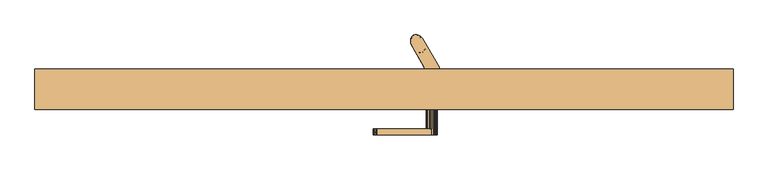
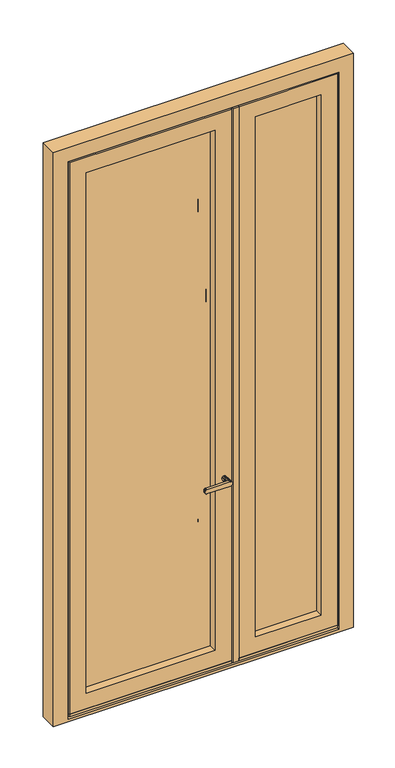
"""IFC4 building model written with IfcOpenShell, lengths in millimetres: door geometry, RDC Tierce."""

from ifc_helpers import new_model, si_unit, frame, origin, place, context, project, spatial, polyline, outline, extrude, faceted_brep, source, transform, mapped, element, save


def door_df96076b(model_context):
    return source(origin(), model_context, "Body", "SolidModel", [
        extrude(outline(polyline([(1217.0, 299.0), (708.0, 299.0), (708.0, 307.3), (1217.0, 307.3), (1217.0, 299.0)])), frame((0.0, 0.0, 176.0160203), z_axis=(0.0, 0.0, 1.0), x_axis=(1.0, 0.0, 0.0)), (0.0, 0.0, 1.0), 13.9839797),
        faceted_brep([(680.5, 307.3, 3208.5), (680.5, 307.3, 178.5), (680.5, 380.7, 178.5), (680.5, 380.7, 3208.5), (701.0, 380.7, 3229.0), (-199.0, 380.7, 3229.0), (-199.0, 380.7, 158.0), (701.0, 380.7, 158.0), (-178.5, 380.7, 3208.5), (-178.5, 380.7, 178.5), (-178.5, 307.3, 178.5), (-178.5, 307.3, 3208.5), (-167.0, 307.3, 3197.0), (669.0, 307.3, 3197.0), (669.0, 307.3, 190.0), (-167.0, 307.3, 190.0), (669.0, 299.0, 3197.0), (669.0, 299.0, 190.0), (-167.0, 299.0, 190.0), (-167.0, 299.0, 3197.0), (-81.9999695, 299.0, 3111.9999695), (583.9999695, 299.0, 3111.9999695), (583.9999695, 299.0, 275.0000305), (-81.9999695, 299.0, 275.0000305), (583.9999695, 340.0, 3111.9999695), (583.9999695, 340.0, 275.0000305), (-81.9999695, 340.0, 275.0000305), (-97.0, 340.0, 3127.0), (599.0, 340.0, 3127.0), (599.0, 340.0, 260.0), (-97.0, 340.0, 260.0), (-81.9999695, 340.0, 3111.9999695), (599.0, 378.0, 3127.0), (599.0, 378.0, 260.0), (-97.0, 378.0, 260.0), (-97.0, 378.0, 3127.0), (-80.0, 378.0, 3110.0), (582.0, 378.0, 3110.0), (582.0, 378.0, 277.0), (-80.0, 378.0, 277.0), (582.0, 389.0, 3110.0), (582.0, 389.0, 277.0), (-80.0, 389.0, 277.0), (-199.0, 389.0, 3229.0), (701.0, 389.0, 3229.0), (701.0, 389.0, 158.0), (-199.0, 389.0, 158.0), (-80.0, 389.0, 3110.0)], [[[0, 1, 2, 3]], [[4, 5, 6, 7], [8, 3, 2, 9]], [[1, 10, 9, 2]], [[0, 11, 10, 1], [12, 13, 14, 15]], [[16, 17, 14, 13]], [[17, 18, 15, 14]], [[16, 19, 18, 17], [20, 21, 22, 23]], [[24, 25, 22, 21]], [[25, 26, 23, 22]], [[27, 28, 29, 30], [24, 31, 26, 25]], [[32, 33, 29, 28]], [[33, 34, 30, 29]], [[32, 35, 34, 33], [36, 37, 38, 39]], [[40, 41, 38, 37]], [[41, 42, 39, 38]], [[43, 44, 45, 46], [40, 47, 42, 41]], [[4, 7, 45, 44]], [[7, 6, 46, 45]], [[10, 11, 8, 9]], [[18, 19, 12, 15]], [[26, 31, 20, 23]], [[34, 35, 27, 30]], [[42, 47, 36, 39]], [[6, 5, 43, 46]], [[11, 0, 3, 8]], [[19, 16, 13, 12]], [[31, 24, 21, 20]], [[35, 32, 28, 27]], [[47, 40, 37, 36]], [[5, 4, 44, 43]]]),
        faceted_brep([(647.9561005, 393.0, 243.5), (614.0438995, 393.0, 243.5), (614.0438995, 389.0, 243.5), (647.9561005, 389.0, 243.5), (647.9561005, 393.0, 213.5), (614.0438995, 393.0, 213.5), (614.0438995, 393.0, 209.5), (614.0438995, 389.0, 209.5), (647.9561005, 389.0, 209.5), (647.9561005, 393.0, 209.5), (593.3206375, 464.7977182, 213.5), (590.2202421, 463.6325794, 213.5), (587.6610052, 461.5301271, 213.5), (585.7712575, 458.5957871, 213.5), (584.645759, 454.9766994, 213.5), (584.3409469, 450.8543403, 213.5), (584.8721057, 446.4354221, 213.5), (586.2126009, 441.9415279, 213.5), (588.2952144, 437.5980002, 213.5), (613.7293692, 452.2824201, 213.5), (611.0090689, 456.2577791, 213.5), (607.7874883, 459.6656279, 213.5), (604.226171, 462.3350828, 213.5), (600.5036962, 464.1322861, 213.5), (596.8067245, 464.9671186, 213.5), (588.2952144, 437.5980002, 209.5), (586.2126009, 441.9415279, 209.5), (584.8721057, 446.4354221, 209.5), (584.3409469, 450.8543403, 209.5), (584.645759, 454.9766994, 209.5), (585.7712575, 458.5957871, 209.5), (587.6610052, 461.5301271, 209.5), (590.2202421, 463.6325794, 209.5), (593.3206375, 464.7977182, 209.5), (596.8067245, 464.9671186, 209.5), (600.5036962, 464.1322861, 209.5), (604.226171, 462.3350828, 209.5), (607.7874883, 459.6656279, 209.5), (611.0090689, 456.2577791, 209.5), (613.7293692, 452.2824201, 209.5), (613.7293692, 452.2824201, 211.9099144), (588.2952144, 437.5980002, 211.0900847), (586.6256711, 460.1586471, 211.5), (598.6402947, 464.6737832, 211.5), (584.3554423, 450.4468941, 211.5)], [[[0, 1, 2, 3]], [[1, 0, 4, 5]], [[5, 6, 7, 2, 1]], [[2, 7, 8, 3]], [[4, 0, 3, 8, 9]], [[10, 11, 12, 13, 14, 15, 16, 17, 18, 5, 4, 19, 20, 21, 22, 23, 24]], [[9, 8, 7, 6, 25, 26, 27, 28, 29, 30, 31, 32, 33, 34, 35, 36, 37, 38, 39]], [[4, 9, 39, 40, 19]], [[6, 5, 18, 41, 25]], [[20, 19, 40]], [[40, 39, 38]], [[12, 42, 13]], [[40, 37, 43]], [[38, 37, 40]], [[35, 34, 43]], [[21, 43, 22]], [[23, 43, 24]], [[43, 33, 32]], [[26, 25, 41]], [[41, 18, 17]], [[35, 43, 36]], [[40, 21, 20]], [[43, 34, 33]], [[42, 30, 29]], [[43, 37, 36]], [[44, 41, 17]], [[43, 23, 22]], [[43, 10, 24]], [[43, 21, 40]], [[10, 43, 11]], [[42, 43, 32]], [[42, 31, 30]], [[28, 44, 29]], [[41, 27, 26]], [[41, 44, 27]], [[27, 44, 28]], [[17, 16, 44]], [[11, 43, 42]], [[31, 42, 32]], [[12, 11, 42]], [[13, 42, 14]], [[14, 42, 44]], [[44, 42, 29]], [[44, 15, 14]], [[44, 16, 15]]]),
        faceted_brep([(-174.0, 299.0, 3204.0), (-174.0, 299.0, 165.0072496), (-174.0, 307.3, 167.8651688), (-174.0, 307.3, 3204.0), (-194.5, 307.3, 167.8651688), (-194.5, 307.3, 3224.5), (1244.5, 307.3, 3224.5), (1244.5, 307.3, 167.8651688), (1224.0, 307.3, 167.8651688), (1224.0, 307.3, 3204.0), (-194.5, 313.5, 170.0), (-194.5, 321.0, 170.0), (-194.5, 321.0, 164.3), (-194.5, 380.7, 164.3), (-194.5, 380.7, 3224.5), (-206.0, 388.9993365, 150.0), (-206.0, 388.9993365, 3236.0), (-206.0, 380.7, 3236.0), (-206.0, 380.7, 150.0), (-250.0, 388.9993365, 150.0), (-250.0, 388.9993365, 3280.0), (1300.0, 388.9993365, 3280.0), (1300.0, 388.9993365, 150.0), (1256.0, 388.9993365, 150.0), (1256.0, 388.9993365, 3236.0), (1224.0, 299.0, 165.0072496), (1224.0, 299.0, 3204.0), (1256.0, 380.7, 150.0), (1256.0, 380.7, 3236.0), (1244.5, 380.7, 3224.5), (1244.5, 380.7, 164.3), (1244.5, 321.0, 164.3), (1244.5, 321.0, 170.0), (1244.5, 313.5, 170.0), (-250.0, 299.0, 3280.0), (1300.0, 299.0, 3280.0), (-250.0, 299.0, 150.0), (1300.0, 299.0, 150.0)], [[[0, 1, 2, 3]], [[3, 2, 4, 5, 6, 7, 8, 9]], [[5, 4, 10, 11, 12, 13, 14]], [[15, 16, 17, 18]], [[19, 20, 21, 22, 23, 24, 16, 15]], [[9, 8, 25, 26]], [[24, 23, 27, 28]], [[29, 30, 31, 32, 33, 7, 6]], [[26, 0, 3, 9]], [[28, 17, 16, 24]], [[21, 20, 34, 35]], [[5, 14, 29, 6]], [[19, 36, 34, 20]], [[35, 37, 22, 21]], [[34, 36, 37, 35], [26, 25, 1, 0]], [[18, 27, 23, 22, 37, 36, 19, 15]], [[10, 4, 2, 1, 25, 8, 7, 33]], [[28, 27, 18, 17], [13, 30, 29, 14]], [[31, 30, 13, 12]], [[12, 11, 32, 31]], [[11, 10, 33, 32]]]),
        faceted_brep([(642.5801281, 299.0, 1203.102886), (642.9886308, 299.0, 1200.0), (642.5801281, 299.0, 1196.897114), (641.3824588, 299.0, 1194.0056846), (639.4772421, 299.0, 1191.5227579), (636.9943154, 299.0, 1189.6175412), (634.102886, 299.0, 1188.4198719), (631.0, 299.0, 1188.0113692), (627.897114, 299.0, 1188.4198719), (625.0056846, 299.0, 1189.6175412), (622.5227579, 299.0, 1191.5227579), (620.6175412, 299.0, 1194.0056846), (619.4198719, 299.0, 1196.897114), (619.0113692, 299.0, 1200.0), (619.4198719, 299.0, 1203.102886), (620.6175412, 299.0, 1205.9943154), (622.5227579, 299.0, 1208.4772421), (625.0056846, 299.0, 1210.3824588), (627.897114, 299.0, 1211.5801281), (631.0, 299.0, 1211.9886308), (634.102886, 299.0, 1211.5801281), (636.9943154, 299.0, 1210.3824588), (639.4772421, 299.0, 1208.4772421), (641.3824588, 299.0, 1205.9943154), (631.0, 255.5001175, 1188.0113692), (627.897114, 255.5001175, 1188.4198719), (625.0056846, 255.5001175, 1189.6175412), (622.5227579, 255.5001175, 1191.5227579), (620.6175412, 255.5001175, 1194.0056846), (619.4198719, 255.5001175, 1196.897114), (619.0113692, 255.5001175, 1200.0), (619.4198719, 255.5001175, 1203.102886), (620.6175412, 255.5001175, 1205.9943154), (622.5227579, 255.5001175, 1208.4772421), (625.0056846, 255.5001175, 1210.3824588), (627.897114, 255.5001175, 1211.5801281), (631.0, 255.5001175, 1211.9886308), (631.0, 243.0000305, 1211.9886308), (634.102886, 243.0000305, 1211.5801281), (636.9943154, 243.0000305, 1210.3824588), (639.4772421, 243.0000305, 1208.4772421), (641.3824588, 243.0000305, 1205.9943154), (642.5801281, 243.0000305, 1203.102886), (642.9886308, 243.0000305, 1200.0), (642.5801281, 243.0000305, 1196.897114), (641.3824588, 243.0000305, 1194.0056846), (639.4772421, 243.0000305, 1191.5227579), (636.9943154, 243.0000305, 1189.6175412), (634.102886, 243.0000305, 1188.4198719), (631.0, 243.0000305, 1188.0113692), (509.3382074, 243.0000305, 1211.9886308), (507.7960029, 243.0000305, 1211.7582726), (506.3130644, 243.0000305, 1211.0760506), (504.9463805, 243.0000305, 1209.9681822), (503.7484721, 243.0000305, 1208.4772421), (502.765374, 243.0000305, 1206.6605264), (502.0348662, 243.0000305, 1204.5878504), (501.5850218, 243.0000305, 1202.3388658), (501.4331279, 243.0000305, 1200.0), (501.5850218, 243.0000305, 1197.6611342), (502.0348662, 243.0000305, 1195.4121496), (502.765374, 243.0000305, 1193.3394736), (503.7484721, 243.0000305, 1191.5227579), (504.9463805, 243.0000305, 1190.0318178), (506.3130644, 243.0000305, 1188.9239494), (507.7960029, 243.0000305, 1188.2417274), (509.3382074, 243.0000305, 1188.0113692), (501.5850218, 255.5001175, 1197.6611342), (501.4331279, 255.5001175, 1200.0), (501.5850218, 255.5001175, 1202.3388658), (502.0348662, 255.5001175, 1204.5878504), (502.765374, 255.5001175, 1206.6605264), (503.7484721, 255.5001175, 1208.4772421), (504.9463805, 255.5001175, 1209.9681822), (506.3130644, 255.5001175, 1211.0760506), (507.7960029, 255.5001175, 1211.7582726), (509.3382074, 255.5001175, 1211.9886308), (509.3382074, 255.5001175, 1188.0113692), (507.7960029, 255.5001175, 1188.2417274), (506.3130644, 255.5001175, 1188.9239494), (504.9463805, 255.5001175, 1190.0318178), (503.7484721, 255.5001175, 1191.5227579), (502.765374, 255.5001175, 1193.3394736), (502.0348662, 255.5001175, 1195.4121496), (509.3382074, 250.0756599, 1188.0113692), (505.6117788, 249.2500761, 1189.4269715), (503.2274983, 249.2500743, 1192.3944932), (501.773518, 249.250074, 1196.5198842), (502.3665497, 249.250074, 1205.6514014), (501.471193, 249.2500741, 1201.1750915), (504.323278, 249.250074, 1209.2673369), (507.0434839, 249.250074, 1211.4724044), (509.3382074, 249.250074, 1211.9886308)], [[[0, 1, 2, 3, 4, 5, 6, 7, 8, 9, 10, 11, 12, 13, 14, 15, 16, 17, 18, 19, 20, 21, 22, 23]], [[7, 24, 25, 8]], [[8, 25, 26, 9]], [[11, 10, 27, 28]], [[27, 10, 9, 26]], [[12, 11, 28, 29]], [[12, 29, 30, 13]], [[13, 30, 31, 14]], [[14, 31, 32, 15]], [[17, 16, 33, 34]], [[33, 16, 15, 32]], [[18, 17, 34, 35]], [[18, 35, 36, 19]], [[19, 36, 37, 38, 20]], [[20, 38, 39, 21]], [[23, 22, 40, 41]], [[40, 22, 21, 39]], [[0, 23, 41, 42]], [[0, 42, 43, 1]], [[1, 43, 44, 2]], [[2, 44, 45, 3]], [[5, 4, 46, 47]], [[46, 4, 3, 45]], [[6, 5, 47, 48]], [[6, 48, 49, 24, 7]], [[44, 43, 42, 41, 40, 39, 38, 37, 50, 51, 52, 53, 54, 55, 56, 57, 58, 59, 60, 61, 62, 63, 64, 65, 66, 49, 48, 47, 46, 45]], [[67, 68, 69, 70, 71, 72, 73, 74, 75, 76, 36, 35, 34, 33, 32, 31, 30, 29, 28, 27, 26, 25, 24, 77, 78, 79, 80, 81, 82, 83]], [[24, 49, 66, 84, 77]], [[65, 64, 85]], [[86, 85, 63]], [[82, 87, 83]], [[80, 86, 81]], [[69, 88, 70]], [[84, 85, 78]], [[87, 60, 59]], [[89, 57, 56]], [[60, 87, 86]], [[73, 90, 91, 74]], [[62, 61, 86]], [[90, 72, 71, 88]], [[89, 87, 58]], [[79, 85, 80]], [[78, 77, 84]], [[65, 84, 66]], [[79, 78, 85]], [[87, 59, 58]], [[63, 85, 64]], [[61, 60, 86]], [[63, 62, 86]], [[81, 86, 82]], [[80, 85, 86]], [[75, 92, 76]], [[51, 50, 92]], [[88, 55, 54, 90]], [[82, 86, 87]], [[84, 65, 85]], [[67, 83, 87]], [[53, 52, 91, 90]], [[67, 87, 89]], [[88, 56, 55]], [[56, 88, 89]], [[52, 51, 91]], [[90, 54, 53]], [[68, 67, 89]], [[68, 89, 69]], [[69, 89, 88]], [[70, 88, 71]], [[51, 92, 91]], [[90, 73, 72]], [[74, 91, 75]], [[91, 92, 75]], [[89, 58, 57]], [[37, 36, 76, 92, 50]]]),
        extrude(outline(polyline([(778.0, 340.0), (778.0, 378.0), (1147.0, 378.0), (1147.0, 340.0), (778.0, 340.0)])), frame((0.0, 0.0, 260.0), z_axis=(0.0, 0.0, 1.0), x_axis=(1.0, 0.0, 0.0)), (0.0, 0.0, 1.0), 2867.0),
        extrude(outline(polyline([(676.0, 299.0), (676.0, 307.3), (708.0, 307.3), (708.0, 299.0), (676.0, 299.0)])), frame((0.0, 0.0, 176.0160203), z_axis=(0.0, 0.0, 1.0), x_axis=(1.0, 0.0, 0.0)), (0.0, 0.0, 1.0), 3020.9839797),
        faceted_brep([(596.8067219, 464.9671188, 3173.5), (593.3206353, 464.7977178, 3173.5), (590.2202405, 463.6325784, 3173.5), (587.6610041, 461.5301259, 3173.5), (585.7712569, 458.5957857, 3173.5), (584.6457588, 454.9766982, 3173.5), (584.3409469, 450.8543393, 3173.5), (584.8721059, 446.4354214, 3173.5), (586.212601, 441.9415275, 3173.5), (588.2952144, 437.5980002, 3173.5), (591.0155151, 433.622642, 3173.5), (594.2370958, 430.2147941, 3173.5), (597.7984131, 427.5453402, 3173.5), (601.5208876, 425.7481378, 3173.5), (605.2178589, 424.9133062, 3173.5), (608.7039455, 425.0827073, 3173.5), (611.8043404, 426.2478466, 3173.5), (614.3635768, 428.3502991, 3173.5), (616.2533239, 431.2846393, 3173.5), (617.3788221, 434.9037268, 3173.5), (617.6836339, 439.0260857, 3173.5), (617.152475, 443.4450036, 3173.5), (615.8119798, 447.9388975, 3173.5), (613.7293665, 452.2824248, 3173.5), (611.0090658, 456.257783, 3173.5), (607.787485, 459.6656309, 3173.5), (604.2261678, 462.3350848, 3173.5), (600.5036932, 464.1322872, 3173.5), (614.3635768, 428.3502991, 213.5), (611.8043404, 426.2478466, 213.5), (608.7039455, 425.0827073, 213.5), (605.2178589, 424.9133062, 213.5), (601.5208876, 425.7481378, 213.5), (597.7984131, 427.5453402, 213.5), (594.2370958, 430.2147941, 213.5), (591.0155151, 433.622642, 213.5), (588.2952144, 437.5980002, 213.5), (586.212601, 441.9415275, 213.5), (584.8721059, 446.4354214, 213.5), (584.3409469, 450.8543393, 213.5), (584.6457588, 454.9766982, 213.5), (585.7712569, 458.5957857, 213.5), (587.6610041, 461.5301259, 213.5), (590.2202405, 463.6325784, 213.5), (593.3206353, 464.7977178, 213.5), (596.8067219, 464.9671188, 213.5), (600.5036932, 464.1322872, 213.5), (604.2261678, 462.3350848, 213.5), (607.787485, 459.6656309, 213.5), (611.0090658, 456.257783, 213.5), (613.7293665, 452.2824248, 213.5), (615.8119798, 447.9388975, 213.5), (617.152475, 443.4450036, 213.5), (617.6836339, 439.0260857, 213.5), (617.3788221, 434.9037268, 213.5), (616.2533239, 431.2846393, 213.5), (590.4499558, 463.7611995, 3109.7202739), (588.2952144, 437.5980002, 305.882384), (585.1085075, 456.8611962, 306.4622832), (598.640293, 464.6737836, 3080.5377144), (598.6402944, 464.6737832, 297.5878259), (597.2620664, 464.9171769, 447.5991387), (603.7250445, 462.633364, 369.6983238), (591.711958, 464.3371112, 368.3639702), (591.1522937, 464.1075509, 1878.9479538), (591.3227774, 464.1816353, 1969.471021), (603.0687486, 462.9970291, 1923.1622134), (584.3331908, 451.4374691, 3017.3016839), (588.8642379, 462.6929778, 3018.6360152), (585.5845848, 458.1711125, 2941.5941552), (588.2952144, 437.5980002, 3081.117616), (613.7293665, 452.2824248, 3081.1176143), (613.7293665, 452.2824248, 305.8823857), (601.1198392, 463.9007366, 2991.9159098), (584.5382143, 454.3273204, 395.0841039), (588.2952144, 437.5980002, 398.264768), (589.9939933, 463.4979492, 277.27972), (588.976153, 462.7836018, 1319.9077775), (589.7796697, 463.3627966, 1415.6471907), (601.3998252, 463.7869455, 1361.207705), (587.1572269, 460.9165369, 460.8307156), (592.0495868, 464.4572952, 528.0009637), (602.6527496, 463.2119189, 2756.8613183), (613.7293665, 452.2824248, 2710.4119159), (602.66564, 463.2054407, 2664.1031244), (585.1085082, 456.8611986, 3089.4121677), (584.3854571, 452.9196575, 1554.573611), (584.3448357, 452.1422464, 1651.9272043), (590.1564077, 463.5954092, 1600.8824188), (613.7293665, 452.2824248, 2988.7352287), (602.2392571, 463.4136252, 2849.455968), (613.7293665, 452.2824248, 2895.8823784), (613.7293665, 452.2824248, 2803.9704641), (613.7293665, 452.2824248, 2803.0295339), (584.3491777, 450.5987754, 721.6031625), (584.3683938, 452.6570795, 813.9855457), (591.6805436, 464.3252466, 769.1927828), (590.6741649, 463.8792339, 2617.7675376), (602.5405107, 463.2678387, 2570.094555), (584.3576349, 452.4557224, 2388.1321376), (589.5361252, 463.1997646, 2341.8233312), (584.3576349, 452.4557225, 2295.5145235), (590.674165, 463.879234, 2710.4119319), (588.2952144, 437.5980002, 952.5590718), (584.341774, 452.04303, 900.9287605), (588.2952144, 437.5980002, 860.1766878), (584.3792653, 452.8303552, 2201.0537221), (588.2952144, 437.5980002, 2249.2056961), (601.4930908, 463.7478511, 1732.6163357), (589.0552669, 462.8461042, 1694.8280712), (589.9680477, 463.4819893, 1788.9182175), (584.3863686, 452.9323319, 2480.6321356), (584.3535746, 452.3680714, 2573.0145176), (590.2843465, 463.6692748, 2525.1767042), (602.57149, 463.2524913, 1183.5150777), (602.9222982, 463.0740541, 1093.585659), (590.9146224, 463.9979308, 1134.754917), (590.2482291, 463.6486774, 1508.2251806), (584.3674595, 452.6409754, 1461.9559969), (588.2952144, 437.5980002, 1508.264768), (584.3676289, 452.6439126, 1832.4264532), (584.4509178, 453.6447667, 1925.0440673), (584.4216398, 453.3567772, 2664.0897353), (588.2952144, 437.5980002, 2341.8233122), (588.2952144, 437.5980002, 2432.5590722), (588.2952144, 437.5980002, 2434.4409282), (590.1593345, 463.5971273, 2433.4275348), (601.5334712, 463.7307401, 2384.8851606), (602.5253113, 463.2753443, 1829.1061855), (603.4915363, 462.7662363, 1645.4269877), (602.8653536, 463.1036002, 2017.9320828), (613.7293665, 452.2824248, 1969.4709955), (588.7615012, 462.6074467, 2864.0921725), (593.797621, 464.8834207, 2930.7084554), (613.7293665, 452.2824248, 1691.6181474), (613.7293665, 452.2824248, 1600.882384), (613.7293665, 452.2824248, 1599.2357617), (602.4089519, 463.3322747, 1457.4592045), (601.2348908, 463.854626, 1272.1664524), (613.7293665, 452.2824248, 1322.0886105), (613.7293665, 452.2824248, 1230.4119199), (613.7293665, 452.2824248, 1229.7062249), (584.3687755, 452.6635968, 1184.1031546), (590.1860605, 463.6127544, 1224.4782647), (584.3407574, 452.0061998, 1739.8088391), (588.2952144, 437.5980002, 1693.5), (588.2952144, 437.5980002, 1784.2357596), (588.2952144, 437.5980002, 1786.117616), (602.163301, 463.4493953, 2476.0712384), (589.5992496, 463.2430151, 2250.0419288), (613.7293665, 452.2824248, 2432.5590737), (613.7293665, 452.2824248, 2341.8233122), (613.7293665, 452.2824248, 2339.9414557), (584.4440531, 453.5809697, 2760.2029636), (588.2952144, 437.5980002, 2711.5880801), (602.668172, 463.2041669, 2108.3974412), (590.2856652, 463.6700231, 2156.5881032), (602.6424241, 463.2170997, 2201.0150551), (584.531336, 454.2800512, 2015.8333542), (584.4239259, 453.3809152, 2106.5480553), (590.6155836, 463.8490917, 2062.9662927), (588.2952144, 437.5980002, 767.7943039), (613.7293665, 452.2824248, 1044.9414594), (603.1550342, 462.9509461, 1008.1234025), (588.2952144, 437.5980002, 490.6471519), (584.3968634, 449.7531606, 461.1498017), (584.3575048, 452.4530358, 627.5817946), (584.4080079, 453.2055472, 536.8383937), (588.2952144, 437.5980002, 583.0295359), (601.9417644, 463.5514578, 713.3140472), (597.3229112, 464.9093372, 619.4560475), (588.1396118, 462.0377675, 689.6168276), (584.4131422, 453.2640699, 1085.3241351), (588.2952144, 437.5980002, 1137.7943039), (584.3371389, 451.8487196, 1276.7207687), (613.7293665, 452.2824248, 490.6471512), (613.7293665, 452.2824248, 398.2647655), (607.6466053, 459.7909707, 444.4560006), (613.7293665, 452.2824248, 860.176688), (604.0391138, 462.4485303, 906.3679313), (613.7293665, 452.2824248, 952.5590737), (588.2548113, 462.1504562, 621.8958332), (588.2952144, 437.5980002, 675.4119199), (590.2202406, 463.6325785, 853.4847613), (602.6512252, 463.2126842, 813.9855493), (604.9224541, 461.8904181, 2924.3179136), (613.7293665, 452.2824248, 2896.3528481), (591.7057261, 464.3347669, 2788.9717797), (584.8363626, 446.6084453, 2942.5440454), (588.2952144, 437.5980002, 2896.3528481), (588.2952144, 437.5980002, 2988.735232), (613.7293665, 452.2824248, 2619.2056961), (613.7293665, 452.2824248, 2617.7943038), (613.7293665, 452.2824248, 2711.5880801), (613.7293665, 452.2824248, 2525.1766917), (613.7293665, 452.2824248, 2434.4409282), (588.2952144, 437.5980002, 2525.1766874), (588.2952144, 437.5980002, 2526.8233122), (588.2952144, 437.5980002, 2803.0295332), (588.2952144, 437.5980002, 2803.9704641), (601.8315197, 463.6009922, 2293.632669), (613.7293665, 452.2824248, 2154.7062314), (613.7293665, 452.2824248, 2249.2056961), (613.7293665, 452.2824248, 2247.3238436), (588.2952144, 437.5980002, 2617.7943027), (588.2952144, 437.5980002, 2619.2056961), (613.7293665, 452.2824248, 2526.8233122), (588.2952144, 437.5980002, 2710.4119179), (588.2952144, 437.5980002, 2339.941457), (588.2952144, 437.5980002, 2156.5880801), (588.2952144, 437.5980002, 1878.735232), (588.2952144, 437.5980002, 1969.470996), (588.2952144, 437.5980002, 1971.3528481), (588.2952144, 437.5980002, 2062.0886112), (588.2952144, 437.5980002, 2063.9704641), (613.7293665, 452.2824248, 2156.5880801), (613.7293665, 452.2824248, 2063.9704641), (613.7293665, 452.2824248, 2062.0886135), (588.2952144, 437.5980002, 2154.7062265), (588.2952144, 437.5980002, 2247.3238417), (613.7293665, 452.2824248, 1971.3528481), (613.7293665, 452.2824248, 1876.8533775), (613.7293665, 452.2824248, 1878.735232), (613.7293665, 452.2824248, 1784.2357595), (613.7293665, 452.2824248, 1693.5), (613.7293665, 452.2824248, 1786.117616), (602.2568415, 463.4052876, 1553.0446058), (613.7293665, 452.2824248, 1506.8533819), (613.7293665, 452.2824248, 1508.264768), (613.7293665, 452.2824248, 1414.4709962), (613.7293665, 452.2824248, 1323.0295359), (613.7293665, 452.2824248, 1137.3238392), (613.7293665, 452.2824248, 1137.7943039), (588.2952144, 437.5980002, 1229.7062239), (588.2952144, 437.5980002, 1230.4119199), (584.3560417, 452.4222865, 1371.4406735), (588.2952144, 437.5980002, 1322.0886068), (588.2952144, 437.5980002, 1323.0295359), (584.6396633, 454.9435278, 986.3205896), (591.4648925, 464.2405737, 1044.9415053), (588.2952144, 437.5980002, 1045.1766878), (592.6430493, 464.6374177, 948.5095776), (588.2952144, 437.5980002, 1599.2357556), (588.2952144, 437.5980002, 1600.882384), (588.2952144, 437.5980002, 1876.8533807), (588.2952144, 437.5980002, 1415.6471519), (588.2952144, 437.5980002, 1414.4709898), (588.2952144, 437.5980002, 1506.8533727), (613.7293665, 452.2824248, 1415.6471519), (613.7293665, 452.2824248, 1045.1766878), (613.7293665, 452.2824248, 767.7943082), (607.6249513, 459.8100799, 629.2207827), (613.7293665, 452.2824248, 675.4119225), (613.7293665, 452.2824248, 583.0295368), (588.2952144, 437.5980002, 1691.6181444), (604.5793543, 462.1139705, 536.8383992), (588.2952144, 437.5980002, 1044.9414581), (588.2952144, 437.5980002, 1137.323841), (584.3466632, 450.6679399, 2850.1616636), (588.2952144, 437.5980002, 2895.8823807), (611.574625, 426.1192255, 3109.7202739), (616.9160734, 433.0192288, 306.4622832), (603.3842879, 425.2066414, 3080.5377144), (603.3842865, 425.2066418, 297.5878259), (604.7625145, 424.9632481, 447.5991387), (598.2995363, 427.247061, 369.6983238), (610.3126228, 425.5433138, 368.3639702), (599.1592273, 426.7768248, 2017.9320828), (598.9558323, 426.8833959, 1923.1622134), (610.7018035, 425.6987897, 1969.471021), (617.6913901, 438.4429559, 3017.3016839), (613.160343, 427.1874472, 3018.6360152), (616.439996, 431.7093125, 2941.5941552), (600.9047417, 425.9796884, 2991.9159098), (617.4863666, 435.5531046, 395.0841039), (612.0305876, 426.3824758, 277.27972), (613.0484279, 427.0968232, 1319.9077775), (612.2449112, 426.5176284, 1415.6471907), (600.6247556, 426.0934795, 1361.207705), (614.867354, 428.9638881, 460.8307156), (609.974994, 425.4231298, 528.0009637), (599.3718313, 426.6685061, 2756.8613183), (599.3589408, 426.6749843, 2664.1031244), (616.9160726, 433.0192264, 3089.4121677), (617.6391237, 436.9607675, 1554.573611), (617.6797452, 437.7381786, 1651.9272043), (611.8681731, 426.2850158, 1600.8824188), (599.7853238, 426.4667998, 2849.455968), (617.6754031, 439.2816496, 721.6031625), (617.6561871, 437.2233455, 813.9855457), (610.3440372, 425.5551785, 769.1927828), (611.350416, 426.0011911, 2617.7675376), (599.4840702, 426.6125863, 2570.094555), (617.666946, 437.4247026, 2388.1321376), (612.4884557, 426.6806604, 2341.8233312), (617.666946, 437.4247025, 2295.5145235), (611.3504159, 426.001191, 2710.4119319), (617.6828069, 437.837395, 900.9287605), (617.6453155, 437.0500698, 2201.0537221), (600.5314901, 426.1325739, 1732.6163357), (612.969314, 427.0343208, 1694.8280712), (612.0565331, 426.3984357, 1788.9182175), (617.6382123, 436.9480931, 2480.6321356), (617.6710063, 437.5123536, 2573.0145176), (611.7402344, 426.2111502, 2525.1767042), (599.4530909, 426.6279337, 1183.5150777), (599.1022826, 426.8063709, 1093.585659), (611.1099584, 425.8824942, 1134.754917), (617.6571214, 437.2394496, 1461.9559969), (610.8722872, 425.7728741, 1878.9479538), (617.6569519, 437.2365124, 1832.4264532), (617.5736631, 436.2356583, 1925.0440673), (617.602941, 436.5236478, 2664.0897353), (611.8652464, 426.2832977, 2433.4275348), (600.4911096, 426.1496849, 2384.8851606), (599.4992696, 426.6050807, 1829.1061855), (598.5330446, 427.1141887, 1645.4269877), (613.2630797, 427.2729783, 2864.0921725), (608.2269598, 424.9970043, 2930.7084554), (599.6156289, 426.5481503, 1457.4592045), (600.7896901, 426.025799, 1272.1664524), (617.6558053, 437.2168282, 1184.1031546), (611.8385203, 426.2676706, 1224.4782647), (617.6838234, 437.8742252, 1739.8088391), (599.8612799, 426.4310297, 2476.0712384), (612.4253313, 426.6374099, 2250.0419288), (617.5805278, 436.2994553, 2760.2029636), (611.7763518, 426.2317476, 1508.2251806), (599.3564089, 426.6762581, 2108.3974412), (611.7389157, 426.2104019, 2156.5881032), (599.3821568, 426.6633253, 2201.0150551), (617.4932449, 435.6003738, 2015.8333542), (617.6006549, 436.4995098, 2106.5480553), (611.4089972, 426.0313333, 2062.9662927), (598.8695467, 426.9294789, 1008.1234025), (617.6277175, 440.1272644, 461.1498017), (617.667076, 437.4273892, 627.5817946), (617.616573, 436.6748778, 536.8383937), (600.0828164, 426.3289672, 713.3140472), (604.7016696, 424.9710878, 619.4560475), (613.8849691, 427.8426575, 689.6168276), (617.6114387, 436.6163551, 1085.3241351), (617.687442, 438.0317054, 1276.7207687), (594.3779756, 430.0894543, 444.4560006), (597.985467, 427.4318947, 906.3679313), (613.7697695, 427.7299688, 621.8958332), (611.8043403, 426.2478465, 853.4847613), (599.3733557, 426.6677408, 813.9855493), (597.1021268, 427.9900069, 2924.3179136), (610.3188548, 425.5456581, 2788.9717797), (617.1882183, 443.2719797, 2942.5440454), (600.1930612, 426.2794328, 2293.632669), (599.7677394, 426.4751374, 1553.0446058), (617.6685392, 437.4581385, 1371.4406735), (617.3849175, 434.9368972, 986.3205896), (610.5596884, 425.6398513, 1044.9415053), (609.3815316, 425.2430073, 948.5095776), (594.3996296, 430.0703451, 629.2207827), (597.4452266, 427.7664545, 536.8383992), (617.6779177, 439.2124851, 2850.1616636)], [[[0, 1, 2, 3, 4, 5, 6, 7, 8, 9, 10, 11, 12, 13, 14, 15, 16, 17, 18, 19, 20, 21, 22, 23, 24, 25, 26, 27]], [[28, 29, 30, 31, 32, 33, 34, 35, 36, 37, 38, 39, 40, 41, 42, 43, 44, 45, 46, 47, 48, 49, 50, 51, 52, 53, 54, 55]], [[56, 3, 2]], [[38, 57, 58]], [[59, 26, 25]], [[59, 0, 27]], [[47, 60, 48]], [[61, 62, 63]], [[64, 65, 66]], [[67, 68, 69]], [[45, 60, 46]], [[0, 56, 1]], [[70, 9, 8]], [[37, 36, 57]], [[24, 23, 71]], [[72, 50, 49]], [[59, 73, 68]], [[47, 46, 60]], [[74, 57, 75]], [[58, 76, 41]], [[77, 78, 79]], [[25, 24, 71]], [[80, 81, 61]], [[82, 83, 84]], [[6, 85, 7]], [[7, 70, 8]], [[86, 87, 88]], [[58, 57, 74]], [[60, 62, 72]], [[26, 59, 27]], [[73, 71, 89]], [[85, 67, 70]], [[76, 45, 44]], [[39, 58, 40]], [[90, 91, 92, 93]], [[94, 95, 96]], [[76, 44, 43]], [[97, 84, 98]], [[6, 5, 85]], [[99, 100, 101]], [[59, 56, 0]], [[85, 56, 68]], [[102, 84, 97]], [[58, 41, 40]], [[38, 37, 57]], [[60, 45, 76]], [[25, 71, 59]], [[76, 42, 41]], [[4, 3, 56]], [[63, 58, 74]], [[60, 76, 63]], [[4, 85, 5]], [[38, 58, 39]], [[48, 72, 49]], [[103, 104, 105]], [[56, 85, 4]], [[60, 72, 48]], [[59, 71, 73]], [[67, 85, 68]], [[62, 60, 63]], [[85, 70, 7]], [[106, 107, 101]], [[108, 109, 110]], [[111, 112, 113]], [[114, 115, 116]], [[117, 118, 86]], [[118, 119, 86]], [[64, 120, 121]], [[102, 97, 122]], [[99, 123, 124, 125]], [[126, 127, 100]], [[64, 128, 110]], [[129, 88, 109]], [[66, 130, 131]], [[110, 128, 108]], [[132, 69, 133]], [[129, 134, 135, 136]], [[78, 137, 79]], [[138, 139, 140, 141]], [[116, 142, 143]], [[144, 145, 146, 147]], [[66, 65, 130]], [[148, 113, 98]], [[149, 101, 100]], [[127, 150, 151, 152]], [[153, 122, 154]], [[117, 137, 78]], [[155, 156, 157]], [[158, 159, 160]], [[160, 155, 130]], [[95, 161, 105]], [[115, 162, 163]], [[75, 164, 165]], [[166, 167, 168]], [[169, 170, 171]], [[142, 172, 173]], [[174, 143, 142]], [[175, 176, 177]], [[167, 164, 168]], [[178, 179, 180]], [[166, 171, 181]], [[80, 165, 167]], [[94, 166, 182]], [[167, 81, 80]], [[95, 104, 183]], [[96, 169, 171]], [[96, 183, 184]], [[185, 89, 186, 91]], [[187, 90, 82]], [[122, 153, 102]], [[188, 189, 190]], [[82, 90, 93]], [[133, 185, 90]], [[90, 132, 133]], [[84, 83, 191, 192]], [[187, 82, 102]], [[82, 93, 193, 83]], [[84, 192, 98]], [[82, 84, 102]], [[148, 194, 195, 150]], [[194, 148, 98]], [[98, 113, 97]], [[97, 113, 112]], [[111, 125, 196, 197]], [[153, 154, 198, 199]], [[200, 127, 152]], [[126, 113, 148]], [[157, 201, 155]], [[200, 152, 202, 203]], [[200, 157, 149]], [[133, 68, 73]], [[187, 153, 132]], [[112, 197, 204, 205]], [[122, 112, 205]], [[111, 113, 126]], [[98, 192, 206, 194]], [[112, 122, 97]], [[111, 197, 112]], [[122, 205, 207, 154]], [[127, 126, 148]], [[101, 107, 208, 123]], [[127, 148, 150]], [[100, 127, 200]], [[99, 126, 100]], [[125, 111, 99]], [[126, 99, 111]], [[99, 101, 123]], [[101, 149, 106]], [[159, 106, 156]], [[159, 209, 106]], [[200, 149, 100]], [[156, 106, 149]], [[156, 160, 159]], [[121, 210, 211, 212]], [[158, 212, 213, 214]], [[159, 158, 214]], [[121, 65, 64]], [[203, 157, 200]], [[158, 65, 121]], [[157, 203, 215, 201]], [[155, 201, 216, 217]], [[149, 157, 156]], [[130, 155, 217]], [[155, 160, 156]], [[159, 214, 218, 209]], [[106, 209, 219, 107]], [[160, 130, 65]], [[130, 217, 220, 131]], [[128, 66, 221]], [[66, 131, 222, 221]], [[108, 223, 224, 134]], [[223, 108, 128]], [[129, 108, 134]], [[108, 129, 109]], [[128, 64, 66]], [[64, 110, 120]], [[128, 221, 225, 223]], [[137, 226, 227]], [[226, 136, 228, 227]], [[117, 88, 226]], [[79, 229, 230, 139]], [[229, 79, 137]], [[114, 138, 141]], [[79, 138, 77]], [[115, 114, 231]], [[114, 141, 232, 231]], [[138, 114, 143]], [[142, 173, 233, 234]], [[78, 235, 118]], [[142, 234, 174]], [[174, 234, 236, 237]], [[116, 172, 142]], [[238, 172, 239]], [[238, 240, 172]], [[241, 238, 239]], [[183, 104, 241]], [[86, 119, 242, 243]], [[120, 147, 244, 210]], [[110, 144, 120]], [[121, 120, 210]], [[144, 110, 109]], [[117, 86, 88]], [[144, 87, 145]], [[86, 243, 87]], [[137, 117, 226]], [[117, 78, 118]], [[235, 78, 77]], [[235, 245, 118]], [[235, 237, 246, 245]], [[118, 245, 247, 119]], [[235, 77, 174]], [[65, 158, 160]], [[212, 158, 121]], [[137, 227, 248, 229]], [[163, 180, 179]], [[116, 115, 239]], [[115, 231, 249, 162]], [[172, 116, 239]], [[114, 116, 143]], [[163, 239, 115]], [[183, 179, 184]], [[184, 250, 169]], [[250, 184, 178]], [[179, 183, 241]], [[251, 252, 253]], [[167, 166, 181]], [[104, 95, 105]], [[238, 104, 103]], [[95, 183, 96]], [[120, 144, 147]], [[87, 144, 109]], [[87, 109, 88]], [[87, 243, 254, 145]], [[169, 252, 251]], [[170, 251, 255]], [[136, 226, 129]], [[88, 129, 226]], [[77, 138, 143]], [[138, 79, 139]], [[235, 174, 237]], [[174, 77, 143]], [[182, 161, 94]], [[181, 171, 170]], [[166, 168, 182]], [[180, 163, 162]], [[241, 239, 163]], [[238, 103, 256, 240]], [[172, 240, 257, 173]], [[104, 238, 241]], [[255, 253, 175]], [[72, 62, 176]], [[80, 63, 74]], [[61, 177, 62]], [[61, 81, 255]], [[258, 199, 259, 189]], [[70, 67, 190]], [[258, 153, 199]], [[69, 188, 67]], [[69, 132, 258]], [[184, 179, 178]], [[163, 179, 241]], [[169, 96, 184]], [[96, 171, 94]], [[169, 250, 252]], [[63, 80, 61]], [[80, 74, 165]], [[95, 94, 161]], [[166, 94, 171]], [[258, 189, 188]], [[153, 258, 132]], [[68, 133, 69]], [[133, 73, 185]], [[89, 185, 73]], [[90, 185, 91]], [[255, 175, 177]], [[170, 255, 81]], [[75, 165, 74]], [[167, 165, 164]], [[153, 187, 102]], [[90, 187, 132]], [[42, 76, 43]], [[63, 76, 58]], [[1, 56, 2]], [[68, 56, 59]], [[170, 81, 181]], [[167, 181, 81]], [[62, 177, 176]], [[255, 177, 61]], [[67, 188, 190]], [[258, 188, 69]], [[255, 251, 253]], [[169, 251, 170]], [[260, 17, 16]], [[52, 72, 261]], [[262, 12, 11]], [[262, 14, 13]], [[33, 263, 34]], [[264, 265, 266]], [[267, 268, 269]], [[270, 271, 272]], [[31, 263, 32]], [[14, 260, 15]], [[71, 23, 22]], [[51, 50, 72]], [[10, 9, 70]], [[57, 36, 35]], [[262, 273, 271]], [[33, 32, 263]], [[274, 72, 176]], [[261, 275, 55]], [[276, 277, 278]], [[11, 10, 70]], [[279, 280, 264]], [[281, 207, 282]], [[20, 283, 21]], [[21, 71, 22]], [[284, 285, 286]], [[261, 72, 274]], [[263, 265, 57]], [[12, 262, 13]], [[273, 70, 190]], [[283, 270, 71]], [[275, 31, 30]], [[53, 261, 54]], [[287, 259, 199, 198]], [[288, 289, 290]], [[275, 30, 29]], [[291, 282, 292]], [[20, 19, 283]], [[293, 294, 295]], [[262, 260, 14]], [[283, 260, 271]], [[296, 282, 291]], [[261, 55, 54]], [[52, 51, 72]], [[263, 31, 275]], [[11, 70, 262]], [[275, 28, 55]], [[18, 17, 260]], [[266, 261, 274]], [[263, 275, 266]], [[18, 283, 19]], [[52, 261, 53]], [[34, 57, 35]], [[180, 297, 178]], [[260, 283, 18]], [[263, 57, 34]], [[262, 70, 273]], [[270, 283, 271]], [[265, 263, 266]], [[283, 71, 21]], [[298, 202, 295]], [[299, 300, 301]], [[302, 303, 304]], [[305, 306, 307]], [[284, 228, 136, 135]], [[308, 228, 284]], [[309, 310, 311]], [[296, 291, 312]], [[293, 151, 150, 195]], [[313, 314, 294]], [[309, 315, 301]], [[316, 286, 300]], [[268, 267, 211]], [[301, 315, 299]], [[317, 272, 318]], [[316, 254, 243, 242]], [[277, 319, 278]], [[320, 236, 234, 233]], [[307, 321, 322]], [[323, 224, 223, 225]], [[268, 211, 210, 244]], [[324, 304, 292]], [[325, 295, 294]], [[314, 124, 123, 208]], [[326, 312, 193]], [[327, 319, 277]], [[328, 329, 330]], [[331, 332, 333]], [[333, 328, 267]], [[289, 250, 178]], [[306, 256, 334]], [[176, 175, 335]], [[336, 337, 253]], [[338, 339, 340]], [[321, 341, 232]], [[342, 322, 321]], [[164, 75, 343]], [[337, 175, 253]], [[105, 344, 103]], [[336, 340, 345]], [[279, 335, 337]], [[288, 336, 252]], [[337, 280, 279]], [[289, 297, 346]], [[290, 338, 340]], [[290, 346, 347]], [[348, 190, 189, 259]], [[349, 287, 281]], [[312, 326, 296]], [[350, 186, 89]], [[281, 287, 198]], [[318, 348, 287]], [[287, 317, 318]], [[282, 207, 205, 204]], [[349, 281, 296]], [[281, 198, 154, 207]], [[282, 204, 292]], [[281, 282, 296]], [[324, 196, 125, 124]], [[196, 324, 292]], [[292, 304, 291]], [[291, 304, 303]], [[302, 195, 194, 206]], [[326, 193, 93, 92]], [[351, 314, 208]], [[313, 304, 324]], [[330, 218, 328]], [[351, 208, 107, 219]], [[351, 330, 325]], [[318, 271, 273]], [[349, 326, 317]], [[303, 206, 192, 191]], [[312, 303, 191]], [[302, 304, 313]], [[292, 204, 197, 196]], [[303, 312, 291]], [[302, 206, 303]], [[312, 191, 83, 193]], [[314, 313, 324]], [[295, 202, 152, 151]], [[314, 324, 124]], [[294, 314, 351]], [[293, 313, 294]], [[195, 302, 293]], [[313, 293, 302]], [[293, 295, 151]], [[295, 325, 298]], [[332, 298, 329]], [[332, 215, 298]], [[351, 325, 294]], [[329, 298, 325]], [[329, 333, 332]], [[311, 222, 131, 220]], [[331, 220, 217, 216]], [[332, 331, 216]], [[311, 269, 309]], [[219, 330, 351]], [[331, 269, 311]], [[330, 219, 209, 218]], [[328, 218, 214, 213]], [[325, 330, 329]], [[267, 328, 213]], [[328, 333, 329]], [[332, 216, 201, 215]], [[298, 215, 203, 202]], [[333, 267, 269]], [[267, 213, 212, 211]], [[315, 268, 244]], [[309, 269, 268]], [[299, 146, 145, 254]], [[146, 299, 315]], [[316, 299, 254]], [[299, 316, 300]], [[315, 309, 268]], [[309, 301, 310]], [[315, 244, 147, 146]], [[319, 352, 247]], [[352, 242, 119, 247]], [[327, 286, 352]], [[278, 246, 237, 236]], [[246, 278, 319]], [[305, 320, 233]], [[278, 320, 276]], [[306, 305, 257]], [[305, 233, 173, 257]], [[320, 305, 322]], [[321, 232, 141, 140]], [[277, 353, 308]], [[321, 140, 342]], [[342, 140, 139, 230]], [[307, 341, 321]], [[354, 341, 355]], [[354, 249, 341]], [[356, 354, 355]], [[346, 297, 356]], [[285, 284, 135]], [[310, 225, 221, 222]], [[301, 323, 310]], [[311, 310, 222]], [[323, 301, 300]], [[327, 284, 286]], [[323, 285, 224]], [[284, 327, 308]], [[319, 327, 352]], [[327, 277, 308]], [[353, 277, 276]], [[353, 248, 308]], [[353, 230, 229, 248]], [[308, 248, 227, 228]], [[353, 276, 342]], [[269, 331, 333]], [[220, 331, 311]], [[319, 247, 245, 246]], [[334, 103, 344]], [[307, 306, 355]], [[306, 257, 240, 256]], [[341, 307, 355]], [[305, 307, 322]], [[334, 355, 306]], [[346, 344, 347]], [[347, 161, 338]], [[161, 347, 105]], [[344, 346, 356]], [[357, 182, 168]], [[337, 336, 345]], [[297, 289, 178]], [[354, 297, 180]], [[289, 346, 290]], [[310, 323, 225]], [[285, 323, 300]], [[285, 300, 286]], [[285, 135, 134, 224]], [[338, 182, 357]], [[339, 357, 358]], [[242, 352, 316]], [[286, 316, 352]], [[276, 320, 322]], [[320, 278, 236]], [[353, 342, 230]], [[342, 276, 322]], [[252, 250, 288]], [[345, 340, 339]], [[336, 253, 252]], [[103, 334, 256]], [[356, 355, 334]], [[354, 180, 162, 249]], [[341, 249, 231, 232]], [[297, 354, 356]], [[358, 168, 164]], [[57, 265, 75]], [[279, 266, 274]], [[264, 343, 265]], [[264, 280, 358]], [[359, 92, 91, 186]], [[71, 270, 89]], [[359, 326, 92]], [[272, 350, 270]], [[272, 317, 359]], [[347, 344, 105]], [[334, 344, 356]], [[338, 290, 347]], [[290, 340, 288]], [[338, 161, 182]], [[266, 279, 264]], [[279, 274, 335]], [[289, 288, 250]], [[336, 288, 340]], [[359, 186, 350]], [[326, 359, 317]], [[271, 318, 272]], [[318, 273, 348]], [[190, 348, 273]], [[287, 348, 259]], [[358, 164, 343]], [[339, 358, 280]], [[176, 335, 274]], [[337, 335, 175]], [[326, 349, 296]], [[287, 349, 317]], [[28, 275, 29]], [[266, 275, 261]], [[15, 260, 16]], [[271, 260, 262]], [[339, 280, 345]], [[337, 345, 280]], [[265, 343, 75]], [[358, 343, 264]], [[270, 350, 89]], [[359, 350, 272]], [[358, 357, 168]], [[338, 357, 339]]]),
        extrude(outline(polyline([(599.0, 378.0), (599.0, 340.0), (-97.0, 340.0), (-97.0, 378.0), (599.0, 378.0)])), frame((0.0, 0.0, 260.0), z_axis=(0.0, 0.0, 1.0), x_axis=(1.0, 0.0, 0.0)), (0.0, 0.0, 1.0), 2867.0),
        faceted_brep([(614.0438995, 393.0, 3143.5), (647.9561005, 393.0, 3143.5), (647.9561005, 389.0, 3143.5), (614.0438995, 389.0, 3143.5), (614.0438995, 393.0, 3173.5), (647.9561005, 393.0, 3173.5), (614.0438995, 389.0, 3177.5), (614.0438995, 393.0, 3177.5), (647.9561005, 389.0, 3177.5), (647.9561005, 393.0, 3177.5), (613.7293665, 452.2824248, 3173.5), (588.2952144, 437.5980002, 3173.5), (586.212601, 441.9415275, 3173.5), (584.8721059, 446.4354214, 3173.5), (584.3409469, 450.8543393, 3173.5), (584.6457588, 454.9766982, 3173.5), (585.7712569, 458.5957857, 3173.5), (587.6610041, 461.5301259, 3173.5), (590.2202405, 463.6325784, 3173.5), (593.3206353, 464.7977178, 3173.5), (596.8067219, 464.9671188, 3173.5), (600.5036932, 464.1322872, 3173.5), (604.2261678, 462.3350848, 3173.5), (607.787485, 459.6656309, 3173.5), (611.0090658, 456.257783, 3173.5), (596.8067219, 464.9671188, 3177.5), (593.3206353, 464.7977178, 3177.5), (590.2202405, 463.6325784, 3177.5), (587.6610041, 461.5301259, 3177.5), (585.7712569, 458.5957857, 3177.5), (584.6457588, 454.9766982, 3177.5), (584.3409469, 450.8543393, 3177.5), (584.8721059, 446.4354214, 3177.5), (586.212601, 441.9415275, 3177.5), (588.2952144, 437.5980002, 3177.5), (613.7293665, 452.2824248, 3177.5), (611.0090658, 456.257783, 3177.5), (607.787485, 459.6656309, 3177.5), (604.2261678, 462.3350848, 3177.5), (600.5036932, 464.1322872, 3177.5), (613.7293665, 452.2824248, 3175.9099144), (588.2952144, 437.5980002, 3175.0900863), (586.6256703, 460.1586458, 3175.5), (598.6402919, 464.6737838, 3175.5), (584.3554423, 450.4468931, 3175.5)], [[[0, 1, 2, 3]], [[4, 5, 1, 0]], [[4, 0, 3, 6, 7]], [[6, 3, 2, 8]], [[5, 9, 8, 2, 1]], [[10, 5, 4, 11, 12, 13, 14, 15, 16, 17, 18, 19, 20, 21, 22, 23, 24]], [[25, 26, 27, 28, 29, 30, 31, 32, 33, 34, 7, 6, 8, 9, 35, 36, 37, 38, 39]], [[9, 5, 10, 40, 35]], [[4, 7, 34, 41, 11]], [[36, 35, 40]], [[40, 10, 24]], [[28, 42, 29]], [[40, 23, 43]], [[24, 23, 40]], [[21, 20, 43]], [[37, 43, 38]], [[39, 43, 25]], [[43, 19, 18]], [[12, 11, 41]], [[41, 34, 33]], [[21, 43, 22]], [[40, 37, 36]], [[43, 20, 19]], [[42, 16, 15]], [[43, 23, 22]], [[44, 41, 33]], [[43, 39, 38]], [[43, 26, 25]], [[43, 37, 40]], [[26, 43, 27]], [[42, 43, 18]], [[42, 17, 16]], [[14, 44, 15]], [[41, 13, 12]], [[41, 44, 13]], [[13, 44, 14]], [[33, 32, 44]], [[27, 43, 42]], [[17, 42, 18]], [[28, 27, 42]], [[29, 42, 30]], [[30, 42, 44]], [[44, 42, 15]], [[44, 31, 30]], [[44, 32, 31]]]),
        faceted_brep([(1131.9999695, 340.0, 3111.9999695), (1131.9999695, 340.0, 275.0000305), (1131.9999695, 299.0, 275.0000305), (1131.9999695, 299.0, 3111.9999695), (1217.0, 299.0, 3197.0), (708.0, 299.0, 3197.0), (708.0, 299.0, 190.0), (1217.0, 299.0, 190.0), (793.0000305, 299.0, 275.0000305), (793.0000305, 299.0, 3111.9999695), (793.0000305, 340.0, 275.0000305), (1147.0, 340.0, 260.0), (778.0, 340.0, 260.0), (778.0, 340.0, 3127.0), (1147.0, 340.0, 3127.0), (793.0000305, 340.0, 3111.9999695), (1147.0, 378.0, 3127.0), (1147.0, 378.0, 260.0), (778.0, 378.0, 260.0), (778.0, 378.0, 3127.0), (1130.0, 378.0, 277.0), (795.0, 378.0, 277.0), (795.0, 378.0, 3110.0), (1130.0, 378.0, 3110.0), (1130.0, 389.0, 3110.0), (1130.0, 389.0, 277.0), (795.0, 389.0, 277.0), (1249.0, 389.0, 158.0), (708.0, 389.0, 158.0), (708.0, 389.0, 3229.0), (1249.0, 389.0, 3229.0), (795.0, 389.0, 3110.0), (1249.0, 380.7, 3229.0), (1249.0, 380.7, 158.0), (708.0, 380.7, 158.0), (708.0, 380.7, 3229.0), (708.0, 380.7, 3208.5), (1228.5, 380.7, 3208.5), (1228.5, 380.7, 178.5), (708.0, 380.7, 178.5), (1228.5, 307.3, 3208.5), (1228.5, 307.3, 178.5), (696.5, 307.3, 178.5), (696.5, 380.7, 178.5), (696.5, 307.3, 3208.5), (1217.0, 307.3, 190.0), (708.0, 307.3, 190.0), (708.0, 307.3, 3197.0), (1217.0, 307.3, 3197.0), (696.5, 380.7, 3208.5)], [[[0, 1, 2, 3]], [[4, 5, 6, 7], [2, 8, 9, 3]], [[1, 10, 8, 2]], [[11, 12, 13, 14], [0, 15, 10, 1]], [[16, 17, 11, 14]], [[17, 18, 12, 11]], [[16, 19, 18, 17], [20, 21, 22, 23]], [[24, 25, 20, 23]], [[25, 26, 21, 20]], [[27, 28, 29, 30], [24, 31, 26, 25]], [[32, 33, 27, 30]], [[33, 34, 28, 27]], [[32, 35, 36, 37, 38, 39, 34, 33]], [[40, 41, 38, 37]], [[41, 42, 43, 39, 38]], [[40, 44, 42, 41], [45, 46, 47, 48]], [[4, 7, 45, 48]], [[7, 6, 46, 45]], [[10, 15, 9, 8]], [[18, 19, 13, 12]], [[26, 31, 22, 21]], [[42, 44, 49, 43]], [[3, 9, 15, 0]], [[14, 13, 19, 16]], [[23, 22, 31, 24]], [[30, 29, 35, 32]], [[37, 36, 49, 44, 40]], [[48, 47, 5, 4]], [[36, 35, 29, 28, 34, 39]], [[39, 43, 49, 36]], [[6, 5, 47, 46]]]),
        extrude(outline(polyline([(669.0, 299.0), (-167.0, 299.0), (-167.0, 307.3), (669.0, 307.3), (669.0, 299.0)])), frame((0.0, 0.0, 176.0), z_axis=(0.0, 0.0, 1.0), x_axis=(1.0, 0.0, 0.0)), (0.0, 0.0, 1.0), 14.0),
    ])


if __name__ == "__main__":
    model = new_model("IFC4")
    model_context = context("Model", 3, world=origin())
    ifc_project = project(units=[si_unit("LENGTHUNIT", "METRE", prefix="MILLI")], contexts=[model_context])
    site = spatial("IfcSite", under=ifc_project)
    building = spatial("IfcBuilding", under=site)
    placement = place(None, origin())
    door_shape = door_df96076b(model_context)
    element("IfcDoor", 1, ObjectType="RDC Tierce", at=placement, inside=building, context=model_context, shape_type="MappedRepresentation", body=[
        mapped(door_shape, transform((0.0, 0.0, 0.0), x_axis=(1.0, 0.0, 0.0), y_axis=(0.0, 1.0, 0.0), z_axis=(0.0, 0.0, 1.0))),
    ])
    save(model, "model.ifc")
